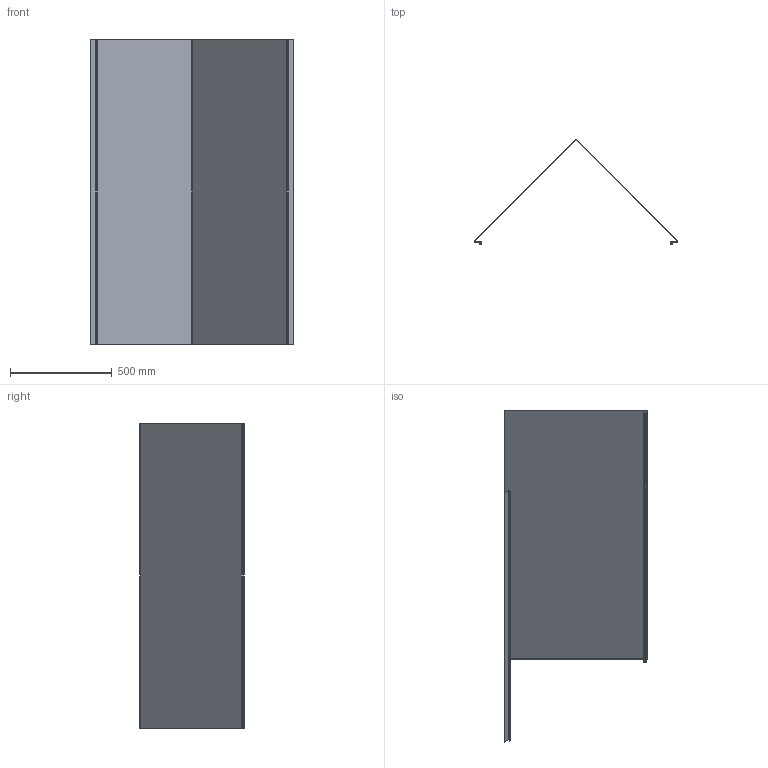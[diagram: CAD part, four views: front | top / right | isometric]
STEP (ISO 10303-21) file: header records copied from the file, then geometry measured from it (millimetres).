
FILE_DESCRIPTION (( 'STEP AP214' ), '1' );
FILE_NAME ('U5.0100.00.00.0 Ñêàòíàÿ êðûøêà.STEP', '2014-10-08T13:09:56', ( '' ), ( '' ), 'SwSTEP 2.0', 'SolidWorks 2014', '' );
FILE_SCHEMA (( 'AUTOMOTIVE_DESIGN' ));
Length unit declared in the file: millimetre
Products named in the file (1): U5.0100.00.00.0 Ñêàòíàÿ êðûøêà
Bounding box: 998.77 x 511.99 x 1500 mm (x, y, z)
Volume: 1819828.1 mm3; surface area: 4554422 mm2
Topology: 1 solids, 1 shells, 66 faces, 136 edges, 72 vertices
Faces by surface type: plane 48, cylinder 18
Entity records: 1710 total; most frequent: DIRECTION 306, CARTESIAN_POINT 275, ORIENTED_EDGE 272, EDGE_CURVE 136, AXIS2_PLACEMENT_3D 103, VECTOR 100, LINE 100, VERTEX_POINT 72
